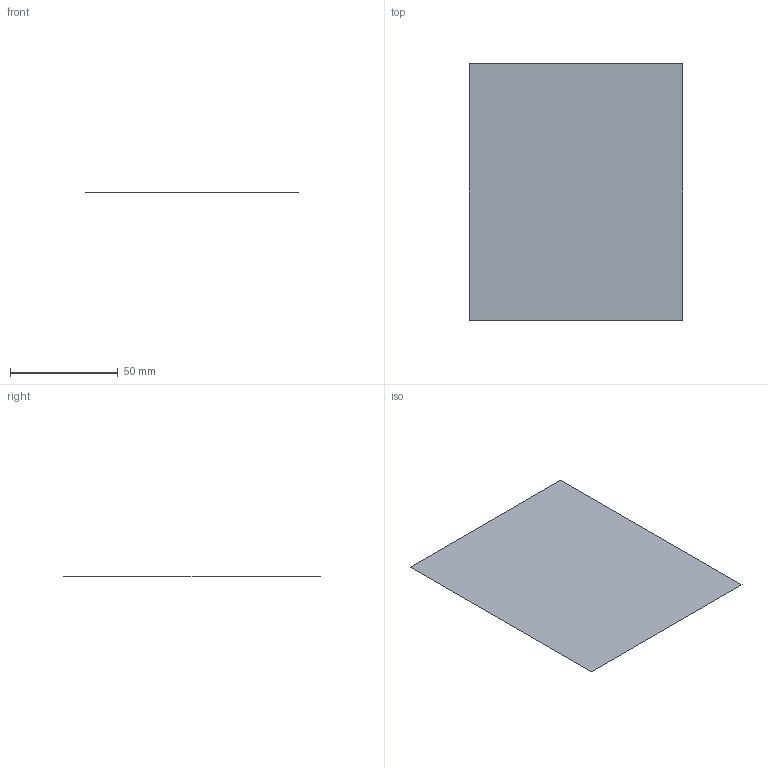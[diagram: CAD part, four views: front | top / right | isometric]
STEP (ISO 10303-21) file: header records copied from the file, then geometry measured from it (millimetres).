
FILE_DESCRIPTION(('CATIA V5 STEP Exchange'),'2;1');
FILE_NAME('C:\_Andres\UNIVERSIDAD\IQS\ASIGNATURAS\DAO\EXF\EXF-15161c\1original\Formosa_Marín_Ej06-calculo_v9.stp','2016-03-04T20:57:42+00:00',('none'),('none'),'CATIA Version 5 Release 20 SP 1 (IN-10)','CATIA V5 STEP AP203','none');
FILE_SCHEMA(('CONFIG_CONTROL_DESIGN'));
Length unit declared in the file: millimetre
Products named in the file (1): Formosa_Marín_Ej06-calculo_v9
Bounding box: 99 x 119 x 0 mm (x, y, z)
Surface area: 11781 mm2 (no closed solid volume)
Topology: 0 solids, 1 shells, 1 faces, 8 edges, 9 vertices
Faces by surface type: plane 1
Entity records: 130 total; most frequent: CARTESIAN_POINT 23, DIRECTION 12, VECTOR 8, LINE 8, COMPOSITE_CURVE_SEGMENT 4, ORIENTED_EDGE 4, CC_DESIGN_PERSON_AND_ORGANIZATION_ASSIGNMENT 4, PERSON_AND_ORGANIZATION_ROLE 4
